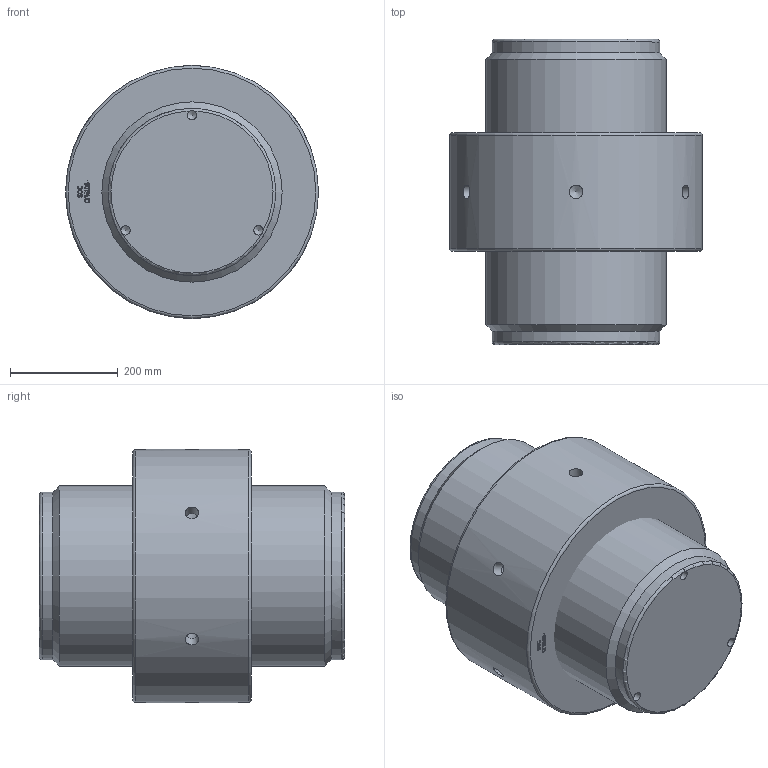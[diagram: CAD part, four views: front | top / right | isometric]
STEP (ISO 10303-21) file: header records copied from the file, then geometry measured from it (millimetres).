
FILE_DESCRIPTION(/* description */ (''),/* implementation_level */ '2;1');
FILE_NAME(/* name */ 'F:\Clienti LS\Redaelli\CYT\CYT\ARRNGEMENT\CYT108 61 061 0.stp',/* time_stamp */ '2021-05-09T08:54:35+02:00',/* author */ ('ranca'),/* organization */ (''),/* preprocessor_version */ 'ST-DEVELOPER v16.13',/* originating_system */ 'Autodesk Inventor 2018',/* authorisation */ '');
FILE_SCHEMA (('AUTOMOTIVE_DESIGN { 1 0 10303 214 3 1 1 }'));
Length unit declared in the file: millimetre
Products named in the file (3): CYT012-61-061-0; CYT012-61-061-0_1; CYT012-61-061-0_DADO
Assembly tree (2 placements, depth 2):
  CYT012-61-061-0
    CYT012-61-061-0_1
    CYT012-61-061-0_DADO
Bounding box: 470 x 567 x 470 mm (x, y, z)
Volume: 68687083 mm3; surface area: 1494447.3 mm2
Topology: 2 solids, 2 shells, 346 faces, 947 edges, 630 vertices
Faces by surface type: bspline 188, plane 129, cylinder 14, cone 11, torus 4
Full cylindrical faces by diameter (mm): 17.294 x3, 25 x6, 311 x2, 327.69 x1, 335 x1, 470 x1
Entity records: 11868 total; most frequent: CARTESIAN_POINT 4544, ORIENTED_EDGE 1796, EDGE_CURVE 898, DIRECTION 861, VERTEX_POINT 610, LINE 479, VECTOR 479, EDGE_LOOP 402
